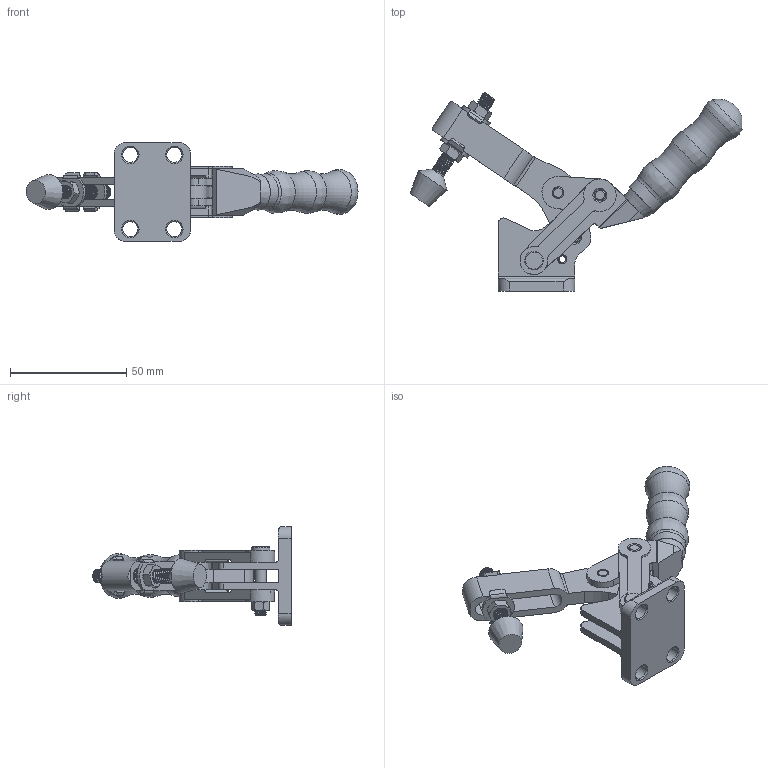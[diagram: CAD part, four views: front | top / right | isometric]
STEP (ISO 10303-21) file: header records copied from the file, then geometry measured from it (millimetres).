
FILE_DESCRIPTION(/* description */ ('STEP AP203'),/* implementation_level */ '2;1');
FILE_NAME(/* name */ 'D:\Vault_2016\Projekty\NASZ KATALOG\CLAMPTEK\STRONA\Heavy duty weldables\CＨ-70300Ｂ\ＣＨ-７０３００Ｂ_OTWARTY.stp',/* time_stamp */ '2019-01-15T13:10:33+01:00',/* author */ ('CADENGINEERING4'),/* organization */ ('Î¢ÈíÖÐ¹ú'),/* preprocessor_version */ 'ST-DEVELOPER v17.2',/* originating_system */ 'Autodesk Inventor 2019',/* authorisation */ '');
FILE_SCHEMA (('AUTOMOTIVE_DESIGN { 1 0 10303 214 3 1 1 }'));
Products named in the file (15): ＣＨ-７０３００Ｂ_OTWA
RTY; µ×_Ä¬ÈÏ; Öù_Ä¬ÈÏ; ³¤Öá_Ä¬ÈÏ; Ì×_Ä¬ÈÏ; Ñ¹Í·_Ä¬ÈÏ; m5ÂÝÄ¸_Ä¬ÈÏ; Ñ¹°Ñ_Ä¬ÈÏ; ÂÝ¸Ë_Ä¬ÈÏ; Á¬¸Ë_Ä¬ÈÏ; TI_Ä¬ÈÏ; »ªË¾ÂÝÄ¸_Ä¬È
Ï; ¶ÌÖá_Ä¬ÈÏ; ¸ôÌ×_Ä¬ÈÏ; »ªË¾_Ä¬ÈÏ
Assembly tree (18 placements, depth 2):
  ＣＨ-７０３００Ｂ_OTWA
RTY
    µ×_Ä¬ÈÏ
    Öù_Ä¬ÈÏ
    »ªË¾ÂÝÄ¸_Ä¬È
Ï  x2
    ³¤Öá_Ä¬ÈÏ
    Ì×_Ä¬ÈÏ
    Á¬¸Ë_Ä¬ÈÏ  x2
    Ñ¹Í·_Ä¬ÈÏ
    ¶ÌÖá_Ä¬ÈÏ  x2
    m5ÂÝÄ¸_Ä¬ÈÏ
    Ñ¹°Ñ_Ä¬ÈÏ
    ÂÝ¸Ë_Ä¬ÈÏ
    »ªË¾_Ä¬ÈÏ  x2
    TI_Ä¬ÈÏ
    ¸ôÌ×_Ä¬ÈÏ
Bounding box: 143.04 x 85.45 x 42.5 mm (x, y, z)
Volume: 48111.3 mm3; surface area: 33985.9 mm2
Topology: 18 solids, 18 shells, 1291 faces, 3446 edges, 2313 vertices
Faces by surface type: plane 755, cylinder 319, bspline 133, cone 76, torus 6, sphere 2
Full cylindrical faces by diameter (mm): 0.853 x1, 3 x2, 5 x35, 5.16 x1, 5.2 x1, 6 x39, 6.028 x6, 6.3 x2, 6.5 x4, 8 x1, 12.517 x1, 13 x1, 14 x1, 15.5 x1
Entity records: 63422 total; most frequent: CARTESIAN_POINT 38681, ORIENTED_EDGE 5288, DIRECTION 4705, EDGE_CURVE 2644, VERTEX_POINT 1779, AXIS2_PLACEMENT_3D 1616, LINE 1473, VECTOR 1473
